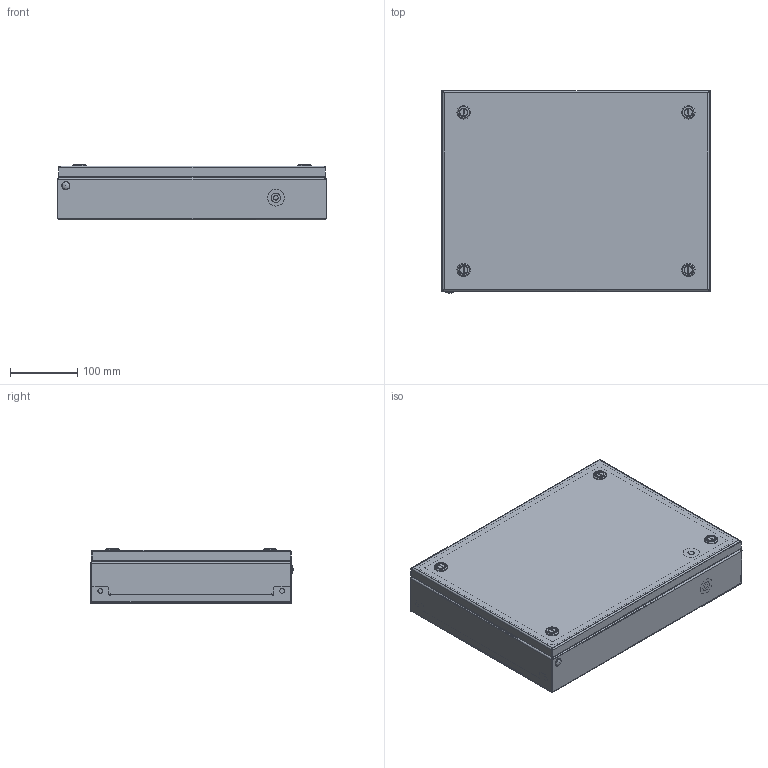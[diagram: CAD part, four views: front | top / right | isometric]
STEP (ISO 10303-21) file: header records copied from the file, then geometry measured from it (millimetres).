
FILE_DESCRIPTION (( 'STEP AP214' ), '1' );
FILE_NAME ('BCS 30.40.08 Êîðîáêà.STEP', '2022-09-13T12:16:58', ( '' ), ( '' ), 'SwSTEP 2.0', 'SolidWorks 2019', '' );
FILE_SCHEMA (( 'AUTOMOTIVE_DESIGN' ));
Length unit declared in the file: millimetre
Products named in the file (1): BCS 30.40.08 Êîðîáêà
Bounding box: 400 x 302.5 x 83 mm (x, y, z)
Volume: 557094.3 mm3; surface area: 880037.1 mm2
Topology: 34 solids, 34 shells, 1715 faces, 4154 edges, 2579 vertices
Faces by surface type: plane 1086, cylinder 389, cone 103, bspline 81, torus 47, sphere 9
Full cylindrical faces by diameter (mm): 3.2 x38, 7 x6, 9 x4, 9.3 x1, 10 x1, 12 x1, 14 x1, 24 x1, 24.8 x1
Entity records: 82080 total; most frequent: CARTESIAN_POINT 23635, ORIENTED_EDGE 8148, DIRECTION 7694, EDGE_CURVE 4074, LINE 2720, VECTOR 2720, VERTEX_POINT 2575, AXIS2_PLACEMENT_3D 2487
